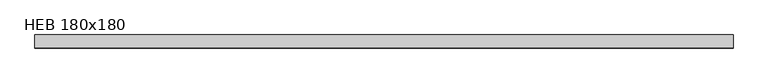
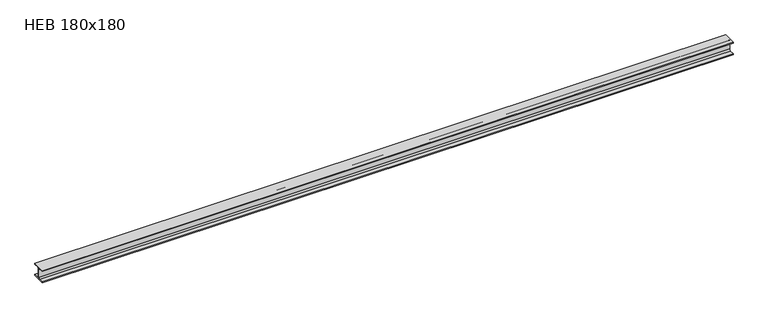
"""IFC4 building model written with IfcOpenShell, lengths in millimetres: beam geometry, M_HP-Bearing Pile : HEB 180x180."""

from ifc_helpers import new_model, si_unit, point, frame, frame_2d, origin, place, context, project, spatial, polyline, circle_curve, trimmed, segment, composite_curve, outline, extrude, source, transform, mapped, element, save


def heb_180x180_6466fbd6(model_context):
    return source(origin(), model_context, "Body", "SweptSolid", [
        extrude(outline(composite_curve([segment(polyline([(90.0, -76.9), (90.0, -90.0), (-90.0, -90.0), (-90.0, -76.9), (-25.45, -76.9)]), True, "CONTINUOUS"), segment(trimmed(circle_curve(frame_2d((-25.45, -58.0)), 18.9), [point((-25.45, -76.9))], [point((-6.55, -58.0))], True, "CARTESIAN"), True, "CONTINUOUS"), segment(polyline([(-6.55, -58.0), (-6.55, 58.0)]), True, "CONTINUOUS"), segment(trimmed(circle_curve(frame_2d((-25.45, 58.0)), 18.9), [point((-6.55, 58.0))], [point((-25.45, 76.9))], True, "CARTESIAN"), True, "CONTINUOUS"), segment(polyline([(-25.45, 76.9), (-90.0, 76.9), (-90.0, 90.0), (90.0, 90.0), (90.0, 76.9), (25.45, 76.9)]), True, "CONTINUOUS"), segment(trimmed(circle_curve(frame_2d((25.45, 58.0)), 18.9), [point((25.45, 76.9))], [point((6.55, 58.0))], True, "CARTESIAN"), True, "CONTINUOUS"), segment(polyline([(6.55, 58.0), (6.55, -58.0)]), True, "CONTINUOUS"), segment(trimmed(circle_curve(frame_2d((25.45, -58.0)), 18.9), [point((6.55, -58.0))], [point((25.45, -76.9))], True, "CARTESIAN"), True, "CONTINUOUS"), segment(polyline([(25.45, -76.9), (90.0, -76.9)]), True, "CONTINUOUS")], self_intersect=False)), frame((-4725.8905341, 0.0, 0.0), z_axis=(1.0, 0.0, 0.0), x_axis=(0.0, 1.0, 0.0)), (0.0, 0.0, 1.0), 9600.8903986),
    ])


if __name__ == "__main__":
    model = new_model("IFC4")
    model_context = context("Model", 3, world=origin())
    ifc_project = project(units=[si_unit("LENGTHUNIT", "METRE", prefix="MILLI")], contexts=[model_context])
    site = spatial("IfcSite", under=ifc_project)
    building = spatial("IfcBuilding", under=site)
    placement = place(None, origin())
    heb_180x180_shape = heb_180x180_6466fbd6(model_context)
    element("IfcBeam", 1, ObjectType="M_HP-Bearing Pile : HEB 180x180", at=placement, inside=building, context=model_context, shape_type="MappedRepresentation", body=[
        mapped(heb_180x180_shape, transform((0.0, 0.0, 0.0), x_axis=(1.0, 0.0, 0.0), y_axis=(0.0, 1.0, 0.0), z_axis=(0.0, 0.0, 1.0))),
    ])
    save(model, "model.ifc")
